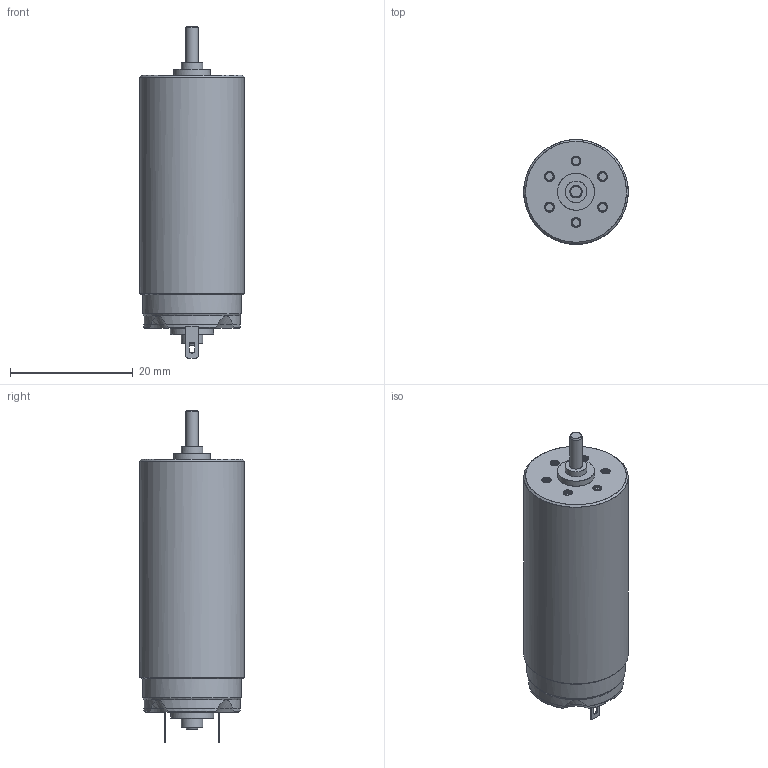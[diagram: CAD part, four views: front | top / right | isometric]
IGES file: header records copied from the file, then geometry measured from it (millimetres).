
Global section: file name: D:\Daten-Huge\PLM_Export\Huellen_aufbr\20120404_fuer_Vertrieb\1741_CXR.igs; native system: NX V7.5; preprocessor: SIEMENS PLM Software NX 7.5; author: DR. FRITZ FAULHABER GmbH & Co. KG; organization: DR. FRITZ FAULHABER GmbH & Co. KG; date: 20120404.105632; units: millimetre
Bounding box: 17 x 16.98 x 54 mm (x, y, z)
Surface area: 2985.7 mm2 (no closed solid volume)
Topology: 0 solids, 0 shells, 273 faces, 1662 edges, 1643 vertices
Faces by surface type: bspline 273
